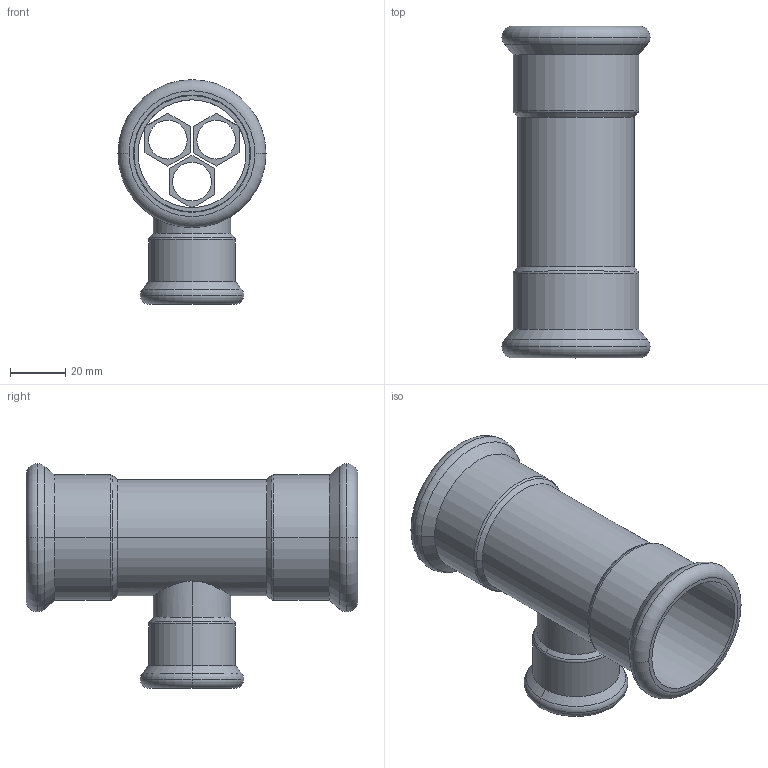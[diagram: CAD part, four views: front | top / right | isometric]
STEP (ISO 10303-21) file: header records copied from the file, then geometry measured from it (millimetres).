
FILE_DESCRIPTION(('OneSpaceDesigner STEP Export'),'2;1');
FILE_NAME('R2715 42x28x42.stp','2010-06-10T 9:06:21',(''),(''),'OneSpace Designer STEP processor for AP214 (Solid Model)','OneSpace Modeling 15.00A 14-Mar-2007 (C) CoCreate Software GmbH','');
FILE_SCHEMA(('AUTOMOTIVE_DESIGN { 1 0 10303 214 1 1 1 1 }'));
Length unit declared in the file: millimetre
Products named in the file (2): R2715_42x28x42
Assembly tree (1 placements, depth 2):
  R2715_42x28x42
    R2715_42x28x42
Bounding box: 53.55 x 120 x 81.28 mm (x, y, z)
Volume: 41626.9 mm3; surface area: 44984.9 mm2
Topology: 1 solids, 1 shells, 174 faces, 431 edges, 276 vertices
Faces by surface type: plane 90, cylinder 54, torus 18, cone 12
Entity records: 5744 total; most frequent: CARTESIAN_POINT 1899, ORIENTED_EDGE 862, DIRECTION 683, EDGE_CURVE 431, VERTEX_POINT 276, VECTOR 263, LINE 263, EDGE_LOOP 211
